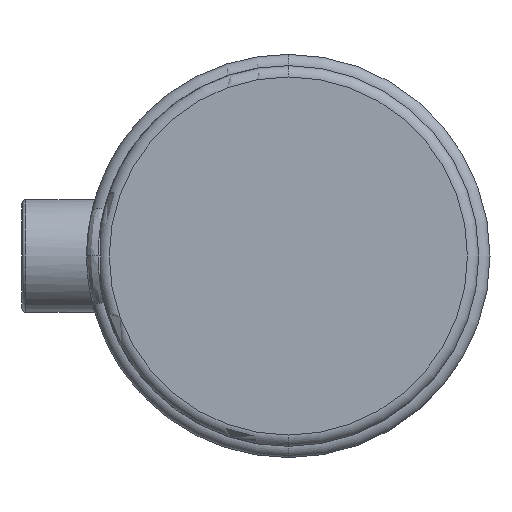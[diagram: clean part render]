
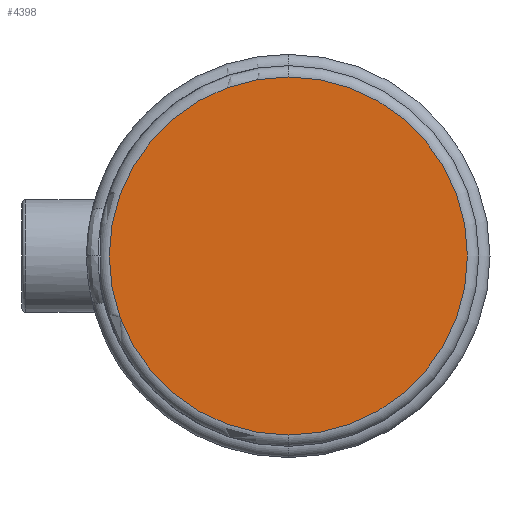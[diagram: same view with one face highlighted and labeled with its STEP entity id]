
A CAD part, left-side view. The second image highlights one B-rep face of the part: STEP entity #4398.
In plain terms, the highlighted planar face has unit normal (-1, 0, 0).
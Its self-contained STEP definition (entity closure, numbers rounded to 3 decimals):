
#257 = CARTESIAN_POINT ( 'NONE',  ( 0., 0., 0. ) ) ;
#594 = DIRECTION ( 'NONE',  ( -1., 0., 0. ) ) ;
#796 = FACE_OUTER_BOUND ( 'NONE', #3691, .T. ) ;
#815 = DIRECTION ( 'NONE',  ( 0., 0., 1. ) ) ;
#817 = VERTEX_POINT ( 'NONE', #935 ) ;
#935 = CARTESIAN_POINT ( 'NONE',  ( 0., 0., -47.6 ) ) ;
#964 = VERTEX_POINT ( 'NONE', #2437 ) ;
#1479 = EDGE_CURVE ( 'NONE', #964, #817, #2743, .T. ) ;
#2042 = EDGE_CURVE ( 'NONE', #817, #964, #2111, .T. ) ;
#2111 = CIRCLE ( 'NONE', #4092, 47.6 ) ;
#2209 = AXIS2_PLACEMENT_3D ( 'NONE', #3407, #594, #3842 ) ;
#2238 = PLANE ( 'NONE',  #5874 ) ;
#2437 = CARTESIAN_POINT ( 'NONE',  ( 0., 0., 47.6 ) ) ;
#2497 = DIRECTION ( 'NONE',  ( -1., 0., 0. ) ) ;
#2743 = CIRCLE ( 'NONE', #2209, 47.6 ) ;
#2744 = ORIENTED_EDGE ( 'NONE', *, *, #1479, .T. ) ;
#2857 = ORIENTED_EDGE ( 'NONE', *, *, #2042, .T. ) ;
#3407 = CARTESIAN_POINT ( 'NONE',  ( 0., 0., 0. ) ) ;
#3593 = DIRECTION ( 'NONE',  ( -1., 0., 0. ) ) ;
#3691 = EDGE_LOOP ( 'NONE', ( #2744, #2857 ) ) ;
#3842 = DIRECTION ( 'NONE',  ( 0., 0., 1. ) ) ;
#4092 = AXIS2_PLACEMENT_3D ( 'NONE', #5160, #2497, #5641 ) ;
#4398 = ADVANCED_FACE ( 'NONE', ( #796 ), #2238, .T. ) ;
#5160 = CARTESIAN_POINT ( 'NONE',  ( 0., 0., 0. ) ) ;
#5641 = DIRECTION ( 'NONE',  ( 0., 0., 1. ) ) ;
#5874 = AXIS2_PLACEMENT_3D ( 'NONE', #257, #3593, #815 ) ;
